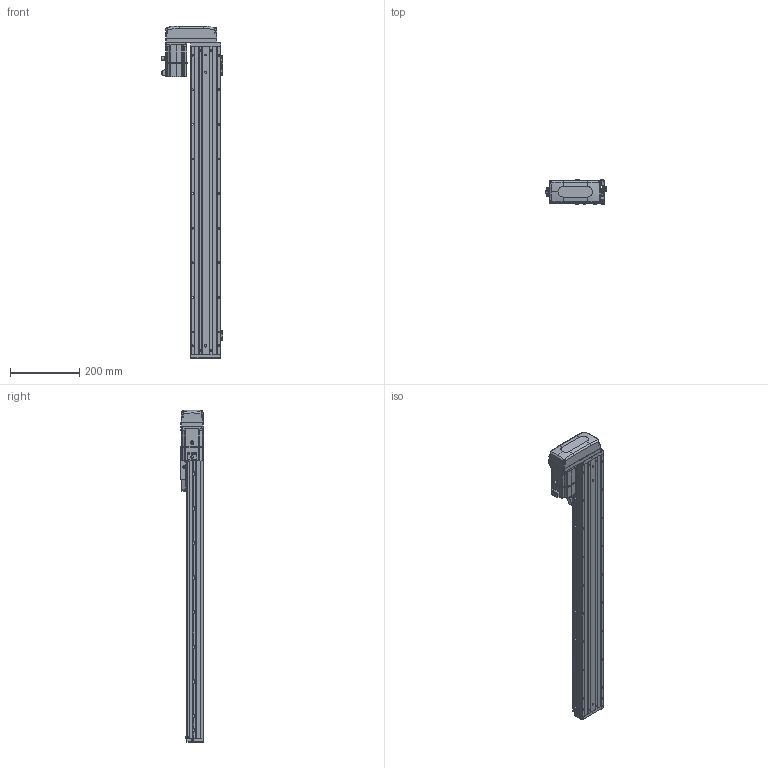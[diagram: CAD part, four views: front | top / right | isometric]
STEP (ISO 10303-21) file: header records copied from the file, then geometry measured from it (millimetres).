
FILE_DESCRIPTION (( 'STEP AP203' ), '1' );
FILE_NAME ('CTHA86-700-BR-M20-C4L.step', '2022-04-26T01:00:59', ( '微软用户' ), ( '微软中国' ), 'SwSTEP 2.0', 'SolidWorks 2020', '' );
FILE_SCHEMA (( 'CONFIG_CONTROL_DESIGN' ));
Length unit declared in the file: millimetre
Products named in the file (21): GBT 70.1-M3×20; CTHA86-031; KTHA86-005; GBT70.1 M5℅16; CTHA86-030; GB¨uT 70.2-M3¡Á5_M3¡Á6; GBT 70.1-M3×16; GBT 70.3-M3℅6; EE_SX911P_R; GBT 70.1-M3℅6; CTHA86-015-1_CTHA86-015-2; CTHA60-017; CTHA60-016; CTHA86-033; CTHA60-021; KTHA86-004; _X2_4E0983F1_X0_200W_1; CTHA86-700-BR-M20-C4L; KTHA86-001_890; GBT77-2000 M3×3; CTHA86-002
Assembly tree (66 placements, depth 2):
  CTHA86-700-BR-M20-C4L
    KTHA86-001_890
    KTHA86-004
    KTHA86-005
    GB¨uT 70.2-M3¡Á5_M3¡Á6  x10
    EE_SX911P_R  x3
    CTHA60-017  x3
    CTHA60-021  x2
    GBT77-2000 M3×3  x6
    GBT 70.1-M3×20
    GBT70.1 M5℅16  x14
    GBT 70.1-M3×16  x5
    GBT 70.1-M3℅6  x6
    CTHA60-016  x2
    _X2_4E0983F1_X0_200W_1
    CTHA86-002
    CTHA86-031
    CTHA86-030  x2
    GBT 70.3-M3℅6  x4
    CTHA86-015-1_CTHA86-015-2
    CTHA86-033
Bounding box: 178.52 x 68 x 959 mm (x, y, z)
Volume: 3731810.8 mm3; surface area: 643567.1 mm2
Topology: 68 solids, 68 shells, 2806 faces, 6708 edges, 4132 vertices
Faces by surface type: plane 1475, cylinder 729, cone 371, torus 132, bspline 75, sphere 24
Entity records: 49727 total; most frequent: CARTESIAN_POINT 9619, DIRECTION 7739, ORIENTED_EDGE 7516, EDGE_CURVE 3758, AXIS2_PLACEMENT_3D 2636, LINE 2467, VECTOR 2467, VERTEX_POINT 2364
